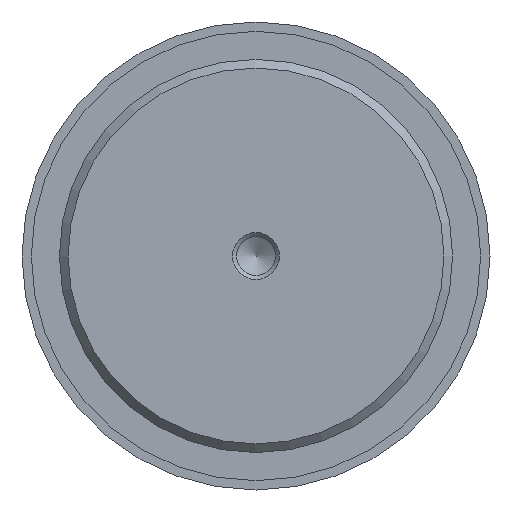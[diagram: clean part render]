
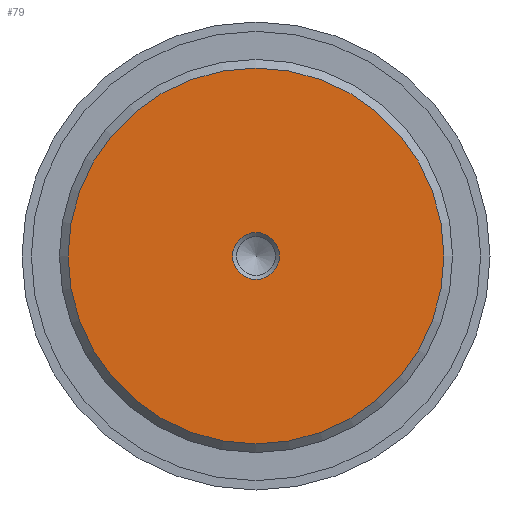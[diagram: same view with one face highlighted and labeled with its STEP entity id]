
A CAD part, front view. The second image highlights one B-rep face of the part: STEP entity #79.
In plain terms, the highlighted planar face has unit normal (0, -1, 0).
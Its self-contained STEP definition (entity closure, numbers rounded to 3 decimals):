
#79 = ADVANCED_FACE( '', ( #139, #140 ), #141, .F. );
#139 = FACE_BOUND( '', #257, .T. );
#140 = FACE_OUTER_BOUND( '', #258, .T. );
#141 = PLANE( '', #259 );
#257 = EDGE_LOOP( '', ( #387 ) );
#258 = EDGE_LOOP( '', ( #388 ) );
#259 = AXIS2_PLACEMENT_3D( '', #389, #390, #391 );
#387 = ORIENTED_EDGE( '', *, *, #758, .F. );
#388 = ORIENTED_EDGE( '', *, *, #762, .T. );
#389 = CARTESIAN_POINT( '', ( 20.08, 0., 0. ) );
#390 = DIRECTION( '', ( 0., 1., 0. ) );
#391 = DIRECTION( '', ( 0., 0., 1. ) );
#758 = EDGE_CURVE( '', #880, #880, #881, .T. );
#762 = EDGE_CURVE( '', #886, #886, #887, .T. );
#880 = VERTEX_POINT( '', #1092 );
#881 = CIRCLE( '', #1093, 2.5 );
#886 = VERTEX_POINT( '', #1098 );
#887 = CIRCLE( '', #1099, 20.08 );
#1092 = CARTESIAN_POINT( '', ( 2.5, 0., 0. ) );
#1093 = AXIS2_PLACEMENT_3D( '', #1442, #1443, #1444 );
#1098 = CARTESIAN_POINT( '', ( 0., 0., -20.08 ) );
#1099 = AXIS2_PLACEMENT_3D( '', #1451, #1452, #1453 );
#1442 = CARTESIAN_POINT( '', ( 0., 0., 0. ) );
#1443 = DIRECTION( '', ( 0., -1., 0. ) );
#1444 = DIRECTION( '', ( 1., 0., 0. ) );
#1451 = CARTESIAN_POINT( '', ( 0., 0., 0. ) );
#1452 = DIRECTION( '', ( 0., -1., 0. ) );
#1453 = DIRECTION( '', ( 0., 0., -1. ) );
